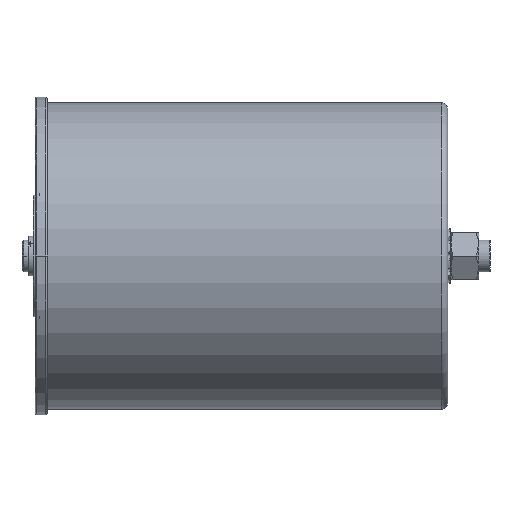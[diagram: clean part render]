
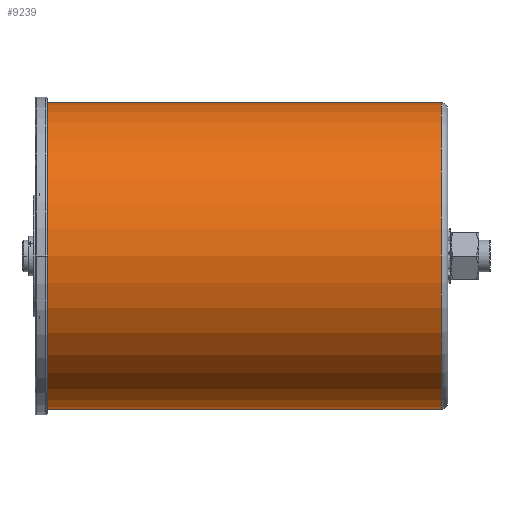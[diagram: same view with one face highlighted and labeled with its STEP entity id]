
A CAD part, left-side view. The second image highlights one B-rep face of the part: STEP entity #9239.
In plain terms, the highlighted cylindrical face has radius 58 mm (diameter 116 mm), a partial arc.
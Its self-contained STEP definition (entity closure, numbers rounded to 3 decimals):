
#2 = LINE ( 'NONE', #7892, #452 ) ;
#151 = CARTESIAN_POINT ( 'NONE',  ( 0., -154.4, 58. ) ) ;
#206 = EDGE_CURVE ( 'NONE', #10666, #9053, #8400, .T. ) ;
#452 = VECTOR ( 'NONE', #3957, 1000. ) ;
#560 = FACE_OUTER_BOUND ( 'NONE', #1635, .T. ) ;
#710 = EDGE_CURVE ( 'NONE', #10666, #1898, #9580, .T. ) ;
#768 = CARTESIAN_POINT ( 'NONE',  ( 0., -0.6, -58. ) ) ;
#1033 = CARTESIAN_POINT ( 'NONE',  ( 0., -0.6, 0. ) ) ;
#1635 = EDGE_LOOP ( 'NONE', ( #10320, #12309, #3537, #2928 ) ) ;
#1898 = VERTEX_POINT ( 'NONE', #5749 ) ;
#2018 = DIRECTION ( 'NONE',  ( 0., -1., 0. ) ) ;
#2400 = CARTESIAN_POINT ( 'NONE',  ( 0., -154.4, 0. ) ) ;
#2928 = ORIENTED_EDGE ( 'NONE', *, *, #7231, .T. ) ;
#3537 = ORIENTED_EDGE ( 'NONE', *, *, #11335, .T. ) ;
#3920 = AXIS2_PLACEMENT_3D ( 'NONE', #2400, #6296, #5338 ) ;
#3957 = DIRECTION ( 'NONE',  ( 0., -1., 0. ) ) ;
#4522 = VECTOR ( 'NONE', #5070, 1000. ) ;
#5070 = DIRECTION ( 'NONE',  ( 0., -1., 0. ) ) ;
#5338 = DIRECTION ( 'NONE',  ( 0., 0., -1. ) ) ;
#5356 = VERTEX_POINT ( 'NONE', #7870 ) ;
#5595 = DIRECTION ( 'NONE',  ( 0., 0., -1. ) ) ;
#5652 = CIRCLE ( 'NONE', #6344, 58. ) ;
#5749 = CARTESIAN_POINT ( 'NONE',  ( 0., -151.9, 58. ) ) ;
#5851 = CARTESIAN_POINT ( 'NONE',  ( 0., -0.6, 58. ) ) ;
#5889 = DIRECTION ( 'NONE',  ( 0., 1., 0. ) ) ;
#6296 = DIRECTION ( 'NONE',  ( 0., -1., 0. ) ) ;
#6344 = AXIS2_PLACEMENT_3D ( 'NONE', #6735, #5889, #10632 ) ;
#6735 = CARTESIAN_POINT ( 'NONE',  ( 0., -151.9, 0. ) ) ;
#7231 = EDGE_CURVE ( 'NONE', #5356, #1898, #5652, .T. ) ;
#7870 = CARTESIAN_POINT ( 'NONE',  ( 0., -151.9, -58. ) ) ;
#7892 = CARTESIAN_POINT ( 'NONE',  ( 0., -154.4, -58. ) ) ;
#8400 = CIRCLE ( 'NONE', #10249, 58. ) ;
#9053 = VERTEX_POINT ( 'NONE', #768 ) ;
#9239 = ADVANCED_FACE ( 'NONE', ( #560 ), #10708, .T. ) ;
#9580 = LINE ( 'NONE', #151, #4522 ) ;
#10249 = AXIS2_PLACEMENT_3D ( 'NONE', #1033, #2018, #5595 ) ;
#10320 = ORIENTED_EDGE ( 'NONE', *, *, #710, .F. ) ;
#10632 = DIRECTION ( 'NONE',  ( 0., 0., -1. ) ) ;
#10666 = VERTEX_POINT ( 'NONE', #5851 ) ;
#10708 = CYLINDRICAL_SURFACE ( 'NONE', #3920, 58. ) ;
#11335 = EDGE_CURVE ( 'NONE', #9053, #5356, #2, .T. ) ;
#12309 = ORIENTED_EDGE ( 'NONE', *, *, #206, .T. ) ;
